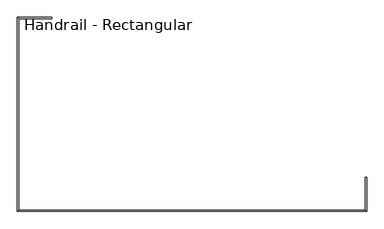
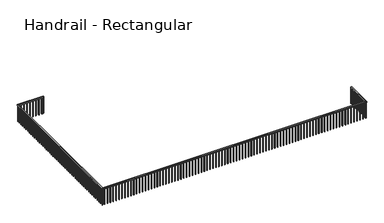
"""IFC4 building model written with IfcOpenShell, lengths in millimetres: railing geometry, Handrail - Rectangular."""

from ifc_helpers import new_model, si_unit, frame, origin, place, context, project, spatial, polyline, outline, extrude, faceted_brep, source, transform, mapped, element, save


def handrail_rectangular_55d58416(model_context):
    return source(origin(), model_context, "Body", "SolidModel", [
        faceted_brep([(-18781.6839563, -34232.3683133, 3962.4), (-18730.8839563, -34232.3683133, 3962.4), (-18730.8839563, -34232.3683133, 3911.6), (-18781.6839563, -34232.3683133, 3911.6), (-18781.6839563, -35527.7683133, 3962.4), (-18730.8839563, -35578.5683133, 3962.4), (-18730.8839563, -35578.5683133, 3911.6), (-18781.6839563, -35527.7683133, 3911.6), (-32396.0839563, -35527.7683133, 3962.4), (-32446.8839563, -35578.5683133, 3962.4), (-32446.8839563, -35578.5683133, 3911.6), (-32396.0839563, -35527.7683133, 3911.6), (-32396.0839563, -28009.3683133, 3962.4), (-32446.8839563, -27958.5683133, 3962.4), (-32446.8839563, -27958.5683133, 3911.6), (-32396.0839563, -28009.3683133, 3911.6), (-31100.6839563, -28009.3683133, 3962.4), (-31100.6839563, -28009.3683133, 3911.6), (-31100.6839563, -27958.5683133, 3911.6), (-31100.6839563, -27958.5683133, 3962.4)], [[[0, 1, 2, 3]], [[1, 0, 4, 5]], [[2, 1, 5, 6]], [[3, 2, 6, 7]], [[0, 3, 7, 4]], [[5, 4, 8, 9]], [[6, 5, 9, 10]], [[7, 6, 10, 11]], [[4, 7, 11, 8]], [[9, 8, 12, 13]], [[10, 9, 13, 14]], [[11, 10, 14, 15]], [[8, 11, 15, 12]], [[16, 17, 18, 19]], [[13, 12, 16, 19]], [[14, 13, 19, 18]], [[15, 14, 18, 17]], [[12, 15, 17, 16]]]),
        extrude(outline(polyline([(-31211.8089563, -27993.4933133), (-31211.8089563, -27974.4433133), (-31192.7589563, -27974.4433133), (-31192.7589563, -27993.4933133), (-31211.8089563, -27993.4933133)])), frame((0.0, 0.0, 3048.0), z_axis=(0.0, 0.0, 1.0), x_axis=(1.0, 0.0, 0.0)), (0.0, 0.0, 1.0), 863.6),
        extrude(outline(polyline([(-31364.2089563, -27993.4933133), (-31364.2089563, -27974.4433133), (-31345.1589563, -27974.4433133), (-31345.1589563, -27993.4933133), (-31364.2089563, -27993.4933133)])), frame((0.0, 0.0, 3048.0), z_axis=(0.0, 0.0, 1.0), x_axis=(1.0, 0.0, 0.0)), (0.0, 0.0, 1.0), 863.6),
        extrude(outline(polyline([(-31516.6089563, -27993.4933133), (-31516.6089563, -27974.4433133), (-31497.5589563, -27974.4433133), (-31497.5589563, -27993.4933133), (-31516.6089563, -27993.4933133)])), frame((0.0, 0.0, 3048.0), z_axis=(0.0, 0.0, 1.0), x_axis=(1.0, 0.0, 0.0)), (0.0, 0.0, 1.0), 863.6),
        extrude(outline(polyline([(-31669.0089563, -27993.4933133), (-31669.0089563, -27974.4433133), (-31649.9589563, -27974.4433133), (-31649.9589563, -27993.4933133), (-31669.0089563, -27993.4933133)])), frame((0.0, 0.0, 3048.0), z_axis=(0.0, 0.0, 1.0), x_axis=(1.0, 0.0, 0.0)), (0.0, 0.0, 1.0), 863.6),
        extrude(outline(polyline([(-31821.4089563, -27993.4933133), (-31821.4089563, -27974.4433133), (-31802.3589563, -27974.4433133), (-31802.3589563, -27993.4933133), (-31821.4089563, -27993.4933133)])), frame((0.0, 0.0, 3048.0), z_axis=(0.0, 0.0, 1.0), x_axis=(1.0, 0.0, 0.0)), (0.0, 0.0, 1.0), 863.6),
        extrude(outline(polyline([(-31973.8089563, -27993.4933133), (-31973.8089563, -27974.4433133), (-31954.7589563, -27974.4433133), (-31954.7589563, -27993.4933133), (-31973.8089563, -27993.4933133)])), frame((0.0, 0.0, 3048.0), z_axis=(0.0, 0.0, 1.0), x_axis=(1.0, 0.0, 0.0)), (0.0, 0.0, 1.0), 863.6),
        extrude(outline(polyline([(-32126.2089563, -27993.4933133), (-32126.2089563, -27974.4433133), (-32107.1589563, -27974.4433133), (-32107.1589563, -27993.4933133), (-32126.2089563, -27993.4933133)])), frame((0.0, 0.0, 3048.0), z_axis=(0.0, 0.0, 1.0), x_axis=(1.0, 0.0, 0.0)), (0.0, 0.0, 1.0), 863.6),
        extrude(outline(polyline([(-32278.6089563, -27993.4933133), (-32278.6089563, -27974.4433133), (-32259.5589563, -27974.4433133), (-32259.5589563, -27993.4933133), (-32278.6089563, -27993.4933133)])), frame((0.0, 0.0, 3048.0), z_axis=(0.0, 0.0, 1.0), x_axis=(1.0, 0.0, 0.0)), (0.0, 0.0, 1.0), 863.6),
        extrude(outline(polyline([(-32411.9589563, -28095.0933133), (-32431.0089563, -28095.0933133), (-32431.0089563, -28076.0433133), (-32411.9589563, -28076.0433133), (-32411.9589563, -28095.0933133)])), frame((0.0, 0.0, 3048.0), z_axis=(0.0, 0.0, 1.0), x_axis=(1.0, 0.0, 0.0)), (0.0, 0.0, 1.0), 863.6),
        extrude(outline(polyline([(-32411.9589563, -28247.4933133), (-32431.0089563, -28247.4933133), (-32431.0089563, -28228.4433133), (-32411.9589563, -28228.4433133), (-32411.9589563, -28247.4933133)])), frame((0.0, 0.0, 3048.0), z_axis=(0.0, 0.0, 1.0), x_axis=(1.0, 0.0, 0.0)), (0.0, 0.0, 1.0), 863.6),
        extrude(outline(polyline([(-32411.9589563, -28399.8933133), (-32431.0089563, -28399.8933133), (-32431.0089563, -28380.8433133), (-32411.9589563, -28380.8433133), (-32411.9589563, -28399.8933133)])), frame((0.0, 0.0, 3048.0), z_axis=(0.0, 0.0, 1.0), x_axis=(1.0, 0.0, 0.0)), (0.0, 0.0, 1.0), 863.6),
        extrude(outline(polyline([(-32411.9589563, -28552.2933133), (-32431.0089563, -28552.2933133), (-32431.0089563, -28533.2433133), (-32411.9589563, -28533.2433133), (-32411.9589563, -28552.2933133)])), frame((0.0, 0.0, 3048.0), z_axis=(0.0, 0.0, 1.0), x_axis=(1.0, 0.0, 0.0)), (0.0, 0.0, 1.0), 863.6),
        extrude(outline(polyline([(-32411.9589563, -28704.6933133), (-32431.0089563, -28704.6933133), (-32431.0089563, -28685.6433133), (-32411.9589563, -28685.6433133), (-32411.9589563, -28704.6933133)])), frame((0.0, 0.0, 3048.0), z_axis=(0.0, 0.0, 1.0), x_axis=(1.0, 0.0, 0.0)), (0.0, 0.0, 1.0), 863.6),
        extrude(outline(polyline([(-32411.9589563, -28857.0933133), (-32431.0089563, -28857.0933133), (-32431.0089563, -28838.0433133), (-32411.9589563, -28838.0433133), (-32411.9589563, -28857.0933133)])), frame((0.0, 0.0, 3048.0), z_axis=(0.0, 0.0, 1.0), x_axis=(1.0, 0.0, 0.0)), (0.0, 0.0, 1.0), 863.6),
        extrude(outline(polyline([(-32411.9589563, -29009.4933133), (-32431.0089563, -29009.4933133), (-32431.0089563, -28990.4433133), (-32411.9589563, -28990.4433133), (-32411.9589563, -29009.4933133)])), frame((0.0, 0.0, 3048.0), z_axis=(0.0, 0.0, 1.0), x_axis=(1.0, 0.0, 0.0)), (0.0, 0.0, 1.0), 863.6),
        extrude(outline(polyline([(-32411.9589563, -29161.8933133), (-32431.0089563, -29161.8933133), (-32431.0089563, -29142.8433133), (-32411.9589563, -29142.8433133), (-32411.9589563, -29161.8933133)])), frame((0.0, 0.0, 3048.0), z_axis=(0.0, 0.0, 1.0), x_axis=(1.0, 0.0, 0.0)), (0.0, 0.0, 1.0), 863.6),
        extrude(outline(polyline([(-32411.9589563, -29314.2933133), (-32431.0089563, -29314.2933133), (-32431.0089563, -29295.2433133), (-32411.9589563, -29295.2433133), (-32411.9589563, -29314.2933133)])), frame((0.0, 0.0, 3048.0), z_axis=(0.0, 0.0, 1.0), x_axis=(1.0, 0.0, 0.0)), (0.0, 0.0, 1.0), 863.6),
        extrude(outline(polyline([(-32411.9589563, -29466.6933133), (-32431.0089563, -29466.6933133), (-32431.0089563, -29447.6433133), (-32411.9589563, -29447.6433133), (-32411.9589563, -29466.6933133)])), frame((0.0, 0.0, 3048.0), z_axis=(0.0, 0.0, 1.0), x_axis=(1.0, 0.0, 0.0)), (0.0, 0.0, 1.0), 863.6),
        extrude(outline(polyline([(-32411.9589563, -29619.0933133), (-32431.0089563, -29619.0933133), (-32431.0089563, -29600.0433133), (-32411.9589563, -29600.0433133), (-32411.9589563, -29619.0933133)])), frame((0.0, 0.0, 3048.0), z_axis=(0.0, 0.0, 1.0), x_axis=(1.0, 0.0, 0.0)), (0.0, 0.0, 1.0), 863.6),
        extrude(outline(polyline([(-32411.9589563, -29771.4933133), (-32431.0089563, -29771.4933133), (-32431.0089563, -29752.4433133), (-32411.9589563, -29752.4433133), (-32411.9589563, -29771.4933133)])), frame((0.0, 0.0, 3048.0), z_axis=(0.0, 0.0, 1.0), x_axis=(1.0, 0.0, 0.0)), (0.0, 0.0, 1.0), 863.6),
        extrude(outline(polyline([(-32411.9589563, -29923.8933133), (-32431.0089563, -29923.8933133), (-32431.0089563, -29904.8433133), (-32411.9589563, -29904.8433133), (-32411.9589563, -29923.8933133)])), frame((0.0, 0.0, 3048.0), z_axis=(0.0, 0.0, 1.0), x_axis=(1.0, 0.0, 0.0)), (0.0, 0.0, 1.0), 863.6),
        extrude(outline(polyline([(-32411.9589563, -30076.2933133), (-32431.0089563, -30076.2933133), (-32431.0089563, -30057.2433133), (-32411.9589563, -30057.2433133), (-32411.9589563, -30076.2933133)])), frame((0.0, 0.0, 3048.0), z_axis=(0.0, 0.0, 1.0), x_axis=(1.0, 0.0, 0.0)), (0.0, 0.0, 1.0), 863.6),
        extrude(outline(polyline([(-32411.9589563, -30228.6933133), (-32431.0089563, -30228.6933133), (-32431.0089563, -30209.6433133), (-32411.9589563, -30209.6433133), (-32411.9589563, -30228.6933133)])), frame((0.0, 0.0, 3048.0), z_axis=(0.0, 0.0, 1.0), x_axis=(1.0, 0.0, 0.0)), (0.0, 0.0, 1.0), 863.6),
        extrude(outline(polyline([(-32411.9589563, -30381.0933133), (-32431.0089563, -30381.0933133), (-32431.0089563, -30362.0433133), (-32411.9589563, -30362.0433133), (-32411.9589563, -30381.0933133)])), frame((0.0, 0.0, 3048.0), z_axis=(0.0, 0.0, 1.0), x_axis=(1.0, 0.0, 0.0)), (0.0, 0.0, 1.0), 863.6),
        extrude(outline(polyline([(-32411.9589563, -30533.4933133), (-32431.0089563, -30533.4933133), (-32431.0089563, -30514.4433133), (-32411.9589563, -30514.4433133), (-32411.9589563, -30533.4933133)])), frame((0.0, 0.0, 3048.0), z_axis=(0.0, 0.0, 1.0), x_axis=(1.0, 0.0, 0.0)), (0.0, 0.0, 1.0), 863.6),
        extrude(outline(polyline([(-32411.9589563, -30685.8933133), (-32431.0089563, -30685.8933133), (-32431.0089563, -30666.8433133), (-32411.9589563, -30666.8433133), (-32411.9589563, -30685.8933133)])), frame((0.0, 0.0, 3048.0), z_axis=(0.0, 0.0, 1.0), x_axis=(1.0, 0.0, 0.0)), (0.0, 0.0, 1.0), 863.6),
        extrude(outline(polyline([(-32411.9589563, -30838.2933133), (-32431.0089563, -30838.2933133), (-32431.0089563, -30819.2433133), (-32411.9589563, -30819.2433133), (-32411.9589563, -30838.2933133)])), frame((0.0, 0.0, 3048.0), z_axis=(0.0, 0.0, 1.0), x_axis=(1.0, 0.0, 0.0)), (0.0, 0.0, 1.0), 863.6),
        extrude(outline(polyline([(-32411.9589563, -30990.6933133), (-32431.0089563, -30990.6933133), (-32431.0089563, -30971.6433133), (-32411.9589563, -30971.6433133), (-32411.9589563, -30990.6933133)])), frame((0.0, 0.0, 3048.0), z_axis=(0.0, 0.0, 1.0), x_axis=(1.0, 0.0, 0.0)), (0.0, 0.0, 1.0), 863.6),
        extrude(outline(polyline([(-32411.9589563, -31143.0933133), (-32431.0089563, -31143.0933133), (-32431.0089563, -31124.0433133), (-32411.9589563, -31124.0433133), (-32411.9589563, -31143.0933133)])), frame((0.0, 0.0, 3048.0), z_axis=(0.0, 0.0, 1.0), x_axis=(1.0, 0.0, 0.0)), (0.0, 0.0, 1.0), 863.6),
        extrude(outline(polyline([(-32411.9589563, -31295.4933133), (-32431.0089563, -31295.4933133), (-32431.0089563, -31276.4433133), (-32411.9589563, -31276.4433133), (-32411.9589563, -31295.4933133)])), frame((0.0, 0.0, 3048.0), z_axis=(0.0, 0.0, 1.0), x_axis=(1.0, 0.0, 0.0)), (0.0, 0.0, 1.0), 863.6),
        extrude(outline(polyline([(-32411.9589563, -31447.8933133), (-32431.0089563, -31447.8933133), (-32431.0089563, -31428.8433133), (-32411.9589563, -31428.8433133), (-32411.9589563, -31447.8933133)])), frame((0.0, 0.0, 3048.0), z_axis=(0.0, 0.0, 1.0), x_axis=(1.0, 0.0, 0.0)), (0.0, 0.0, 1.0), 863.6),
        extrude(outline(polyline([(-32411.9589563, -31600.2933133), (-32431.0089563, -31600.2933133), (-32431.0089563, -31581.2433133), (-32411.9589563, -31581.2433133), (-32411.9589563, -31600.2933133)])), frame((0.0, 0.0, 3048.0), z_axis=(0.0, 0.0, 1.0), x_axis=(1.0, 0.0, 0.0)), (0.0, 0.0, 1.0), 863.6),
        extrude(outline(polyline([(-32411.9589563, -31752.6933133), (-32431.0089563, -31752.6933133), (-32431.0089563, -31733.6433133), (-32411.9589563, -31733.6433133), (-32411.9589563, -31752.6933133)])), frame((0.0, 0.0, 3048.0), z_axis=(0.0, 0.0, 1.0), x_axis=(1.0, 0.0, 0.0)), (0.0, 0.0, 1.0), 863.6),
        extrude(outline(polyline([(-32411.9589563, -31905.0933133), (-32431.0089563, -31905.0933133), (-32431.0089563, -31886.0433133), (-32411.9589563, -31886.0433133), (-32411.9589563, -31905.0933133)])), frame((0.0, 0.0, 3048.0), z_axis=(0.0, 0.0, 1.0), x_axis=(1.0, 0.0, 0.0)), (0.0, 0.0, 1.0), 863.6),
        extrude(outline(polyline([(-32411.9589563, -32057.4933133), (-32431.0089563, -32057.4933133), (-32431.0089563, -32038.4433133), (-32411.9589563, -32038.4433133), (-32411.9589563, -32057.4933133)])), frame((0.0, 0.0, 3048.0), z_axis=(0.0, 0.0, 1.0), x_axis=(1.0, 0.0, 0.0)), (0.0, 0.0, 1.0), 863.6),
        extrude(outline(polyline([(-32411.9589563, -32209.8933133), (-32431.0089563, -32209.8933133), (-32431.0089563, -32190.8433133), (-32411.9589563, -32190.8433133), (-32411.9589563, -32209.8933133)])), frame((0.0, 0.0, 3048.0), z_axis=(0.0, 0.0, 1.0), x_axis=(1.0, 0.0, 0.0)), (0.0, 0.0, 1.0), 863.6),
        extrude(outline(polyline([(-32411.9589563, -32362.2933133), (-32431.0089563, -32362.2933133), (-32431.0089563, -32343.2433133), (-32411.9589563, -32343.2433133), (-32411.9589563, -32362.2933133)])), frame((0.0, 0.0, 3048.0), z_axis=(0.0, 0.0, 1.0), x_axis=(1.0, 0.0, 0.0)), (0.0, 0.0, 1.0), 863.6),
        extrude(outline(polyline([(-32411.9589563, -32514.6933133), (-32431.0089563, -32514.6933133), (-32431.0089563, -32495.6433133), (-32411.9589563, -32495.6433133), (-32411.9589563, -32514.6933133)])), frame((0.0, 0.0, 3048.0), z_axis=(0.0, 0.0, 1.0), x_axis=(1.0, 0.0, 0.0)), (0.0, 0.0, 1.0), 863.6),
        extrude(outline(polyline([(-32411.9589563, -32667.0933133), (-32431.0089563, -32667.0933133), (-32431.0089563, -32648.0433133), (-32411.9589563, -32648.0433133), (-32411.9589563, -32667.0933133)])), frame((0.0, 0.0, 3048.0), z_axis=(0.0, 0.0, 1.0), x_axis=(1.0, 0.0, 0.0)), (0.0, 0.0, 1.0), 863.6),
        extrude(outline(polyline([(-32411.9589563, -32819.4933133), (-32431.0089563, -32819.4933133), (-32431.0089563, -32800.4433133), (-32411.9589563, -32800.4433133), (-32411.9589563, -32819.4933133)])), frame((0.0, 0.0, 3048.0), z_axis=(0.0, 0.0, 1.0), x_axis=(1.0, 0.0, 0.0)), (0.0, 0.0, 1.0), 863.6),
        extrude(outline(polyline([(-32411.9589563, -32971.8933133), (-32431.0089563, -32971.8933133), (-32431.0089563, -32952.8433133), (-32411.9589563, -32952.8433133), (-32411.9589563, -32971.8933133)])), frame((0.0, 0.0, 3048.0), z_axis=(0.0, 0.0, 1.0), x_axis=(1.0, 0.0, 0.0)), (0.0, 0.0, 1.0), 863.6),
        extrude(outline(polyline([(-32411.9589563, -33124.2933133), (-32431.0089563, -33124.2933133), (-32431.0089563, -33105.2433133), (-32411.9589563, -33105.2433133), (-32411.9589563, -33124.2933133)])), frame((0.0, 0.0, 3048.0), z_axis=(0.0, 0.0, 1.0), x_axis=(1.0, 0.0, 0.0)), (0.0, 0.0, 1.0), 863.6),
        extrude(outline(polyline([(-32411.9589563, -33276.6933133), (-32431.0089563, -33276.6933133), (-32431.0089563, -33257.6433133), (-32411.9589563, -33257.6433133), (-32411.9589563, -33276.6933133)])), frame((0.0, 0.0, 3048.0), z_axis=(0.0, 0.0, 1.0), x_axis=(1.0, 0.0, 0.0)), (0.0, 0.0, 1.0), 863.6),
        extrude(outline(polyline([(-32411.9589563, -33429.0933133), (-32431.0089563, -33429.0933133), (-32431.0089563, -33410.0433133), (-32411.9589563, -33410.0433133), (-32411.9589563, -33429.0933133)])), frame((0.0, 0.0, 3048.0), z_axis=(0.0, 0.0, 1.0), x_axis=(1.0, 0.0, 0.0)), (0.0, 0.0, 1.0), 863.6),
        extrude(outline(polyline([(-32411.9589563, -33581.4933133), (-32431.0089563, -33581.4933133), (-32431.0089563, -33562.4433133), (-32411.9589563, -33562.4433133), (-32411.9589563, -33581.4933133)])), frame((0.0, 0.0, 3048.0), z_axis=(0.0, 0.0, 1.0), x_axis=(1.0, 0.0, 0.0)), (0.0, 0.0, 1.0), 863.6),
        extrude(outline(polyline([(-32411.9589563, -33733.8933133), (-32431.0089563, -33733.8933133), (-32431.0089563, -33714.8433133), (-32411.9589563, -33714.8433133), (-32411.9589563, -33733.8933133)])), frame((0.0, 0.0, 3048.0), z_axis=(0.0, 0.0, 1.0), x_axis=(1.0, 0.0, 0.0)), (0.0, 0.0, 1.0), 863.6),
        extrude(outline(polyline([(-32411.9589563, -33886.2933133), (-32431.0089563, -33886.2933133), (-32431.0089563, -33867.2433133), (-32411.9589563, -33867.2433133), (-32411.9589563, -33886.2933133)])), frame((0.0, 0.0, 3048.0), z_axis=(0.0, 0.0, 1.0), x_axis=(1.0, 0.0, 0.0)), (0.0, 0.0, 1.0), 863.6),
        extrude(outline(polyline([(-32411.9589563, -34038.6933133), (-32431.0089563, -34038.6933133), (-32431.0089563, -34019.6433133), (-32411.9589563, -34019.6433133), (-32411.9589563, -34038.6933133)])), frame((0.0, 0.0, 3048.0), z_axis=(0.0, 0.0, 1.0), x_axis=(1.0, 0.0, 0.0)), (0.0, 0.0, 1.0), 863.6),
        extrude(outline(polyline([(-32411.9589563, -34191.0933133), (-32431.0089563, -34191.0933133), (-32431.0089563, -34172.0433133), (-32411.9589563, -34172.0433133), (-32411.9589563, -34191.0933133)])), frame((0.0, 0.0, 3048.0), z_axis=(0.0, 0.0, 1.0), x_axis=(1.0, 0.0, 0.0)), (0.0, 0.0, 1.0), 863.6),
        extrude(outline(polyline([(-32411.9589563, -34343.4933133), (-32431.0089563, -34343.4933133), (-32431.0089563, -34324.4433133), (-32411.9589563, -34324.4433133), (-32411.9589563, -34343.4933133)])), frame((0.0, 0.0, 3048.0), z_axis=(0.0, 0.0, 1.0), x_axis=(1.0, 0.0, 0.0)), (0.0, 0.0, 1.0), 863.6),
        extrude(outline(polyline([(-32411.9589563, -34495.8933133), (-32431.0089563, -34495.8933133), (-32431.0089563, -34476.8433133), (-32411.9589563, -34476.8433133), (-32411.9589563, -34495.8933133)])), frame((0.0, 0.0, 3048.0), z_axis=(0.0, 0.0, 1.0), x_axis=(1.0, 0.0, 0.0)), (0.0, 0.0, 1.0), 863.6),
        extrude(outline(polyline([(-32411.9589563, -34648.2933133), (-32431.0089563, -34648.2933133), (-32431.0089563, -34629.2433133), (-32411.9589563, -34629.2433133), (-32411.9589563, -34648.2933133)])), frame((0.0, 0.0, 3048.0), z_axis=(0.0, 0.0, 1.0), x_axis=(1.0, 0.0, 0.0)), (0.0, 0.0, 1.0), 863.6),
        extrude(outline(polyline([(-32411.9589563, -34800.6933133), (-32431.0089563, -34800.6933133), (-32431.0089563, -34781.6433133), (-32411.9589563, -34781.6433133), (-32411.9589563, -34800.6933133)])), frame((0.0, 0.0, 3048.0), z_axis=(0.0, 0.0, 1.0), x_axis=(1.0, 0.0, 0.0)), (0.0, 0.0, 1.0), 863.6),
        extrude(outline(polyline([(-32411.9589563, -34953.0933133), (-32431.0089563, -34953.0933133), (-32431.0089563, -34934.0433133), (-32411.9589563, -34934.0433133), (-32411.9589563, -34953.0933133)])), frame((0.0, 0.0, 3048.0), z_axis=(0.0, 0.0, 1.0), x_axis=(1.0, 0.0, 0.0)), (0.0, 0.0, 1.0), 863.6),
        extrude(outline(polyline([(-32411.9589563, -35105.4933133), (-32431.0089563, -35105.4933133), (-32431.0089563, -35086.4433133), (-32411.9589563, -35086.4433133), (-32411.9589563, -35105.4933133)])), frame((0.0, 0.0, 3048.0), z_axis=(0.0, 0.0, 1.0), x_axis=(1.0, 0.0, 0.0)), (0.0, 0.0, 1.0), 863.6),
        extrude(outline(polyline([(-32411.9589563, -35257.8933133), (-32431.0089563, -35257.8933133), (-32431.0089563, -35238.8433133), (-32411.9589563, -35238.8433133), (-32411.9589563, -35257.8933133)])), frame((0.0, 0.0, 3048.0), z_axis=(0.0, 0.0, 1.0), x_axis=(1.0, 0.0, 0.0)), (0.0, 0.0, 1.0), 863.6),
        extrude(outline(polyline([(-32411.9589563, -35410.2933133), (-32431.0089563, -35410.2933133), (-32431.0089563, -35391.2433133), (-32411.9589563, -35391.2433133), (-32411.9589563, -35410.2933133)])), frame((0.0, 0.0, 3048.0), z_axis=(0.0, 0.0, 1.0), x_axis=(1.0, 0.0, 0.0)), (0.0, 0.0, 1.0), 863.6),
        extrude(outline(polyline([(-32310.3589563, -35543.6433133), (-32310.3589563, -35562.6933133), (-32329.4089563, -35562.6933133), (-32329.4089563, -35543.6433133), (-32310.3589563, -35543.6433133)])), frame((0.0, 0.0, 3048.0), z_axis=(0.0, 0.0, 1.0), x_axis=(1.0, 0.0, 0.0)), (0.0, 0.0, 1.0), 863.6),
        extrude(outline(polyline([(-32157.9589563, -35543.6433133), (-32157.9589563, -35562.6933133), (-32177.0089563, -35562.6933133), (-32177.0089563, -35543.6433133), (-32157.9589563, -35543.6433133)])), frame((0.0, 0.0, 3048.0), z_axis=(0.0, 0.0, 1.0), x_axis=(1.0, 0.0, 0.0)), (0.0, 0.0, 1.0), 863.6),
        extrude(outline(polyline([(-32005.5589563, -35543.6433133), (-32005.5589563, -35562.6933133), (-32024.6089563, -35562.6933133), (-32024.6089563, -35543.6433133), (-32005.5589563, -35543.6433133)])), frame((0.0, 0.0, 3048.0), z_axis=(0.0, 0.0, 1.0), x_axis=(1.0, 0.0, 0.0)), (0.0, 0.0, 1.0), 863.6),
        extrude(outline(polyline([(-31853.1589563, -35543.6433133), (-31853.1589563, -35562.6933133), (-31872.2089563, -35562.6933133), (-31872.2089563, -35543.6433133), (-31853.1589563, -35543.6433133)])), frame((0.0, 0.0, 3048.0), z_axis=(0.0, 0.0, 1.0), x_axis=(1.0, 0.0, 0.0)), (0.0, 0.0, 1.0), 863.6),
        extrude(outline(polyline([(-31700.7589563, -35543.6433133), (-31700.7589563, -35562.6933133), (-31719.8089563, -35562.6933133), (-31719.8089563, -35543.6433133), (-31700.7589563, -35543.6433133)])), frame((0.0, 0.0, 3048.0), z_axis=(0.0, 0.0, 1.0), x_axis=(1.0, 0.0, 0.0)), (0.0, 0.0, 1.0), 863.6),
        extrude(outline(polyline([(-31548.3589563, -35543.6433133), (-31548.3589563, -35562.6933133), (-31567.4089563, -35562.6933133), (-31567.4089563, -35543.6433133), (-31548.3589563, -35543.6433133)])), frame((0.0, 0.0, 3048.0), z_axis=(0.0, 0.0, 1.0), x_axis=(1.0, 0.0, 0.0)), (0.0, 0.0, 1.0), 863.6),
        extrude(outline(polyline([(-31395.9589563, -35543.6433133), (-31395.9589563, -35562.6933133), (-31415.0089563, -35562.6933133), (-31415.0089563, -35543.6433133), (-31395.9589563, -35543.6433133)])), frame((0.0, 0.0, 3048.0), z_axis=(0.0, 0.0, 1.0), x_axis=(1.0, 0.0, 0.0)), (0.0, 0.0, 1.0), 863.6),
        extrude(outline(polyline([(-31243.5589563, -35543.6433133), (-31243.5589563, -35562.6933133), (-31262.6089563, -35562.6933133), (-31262.6089563, -35543.6433133), (-31243.5589563, -35543.6433133)])), frame((0.0, 0.0, 3048.0), z_axis=(0.0, 0.0, 1.0), x_axis=(1.0, 0.0, 0.0)), (0.0, 0.0, 1.0), 863.6),
        extrude(outline(polyline([(-31091.1589563, -35543.6433133), (-31091.1589563, -35562.6933133), (-31110.2089563, -35562.6933133), (-31110.2089563, -35543.6433133), (-31091.1589563, -35543.6433133)])), frame((0.0, 0.0, 3048.0), z_axis=(0.0, 0.0, 1.0), x_axis=(1.0, 0.0, 0.0)), (0.0, 0.0, 1.0), 863.6),
        extrude(outline(polyline([(-30938.7589563, -35543.6433133), (-30938.7589563, -35562.6933133), (-30957.8089563, -35562.6933133), (-30957.8089563, -35543.6433133), (-30938.7589563, -35543.6433133)])), frame((0.0, 0.0, 3048.0), z_axis=(0.0, 0.0, 1.0), x_axis=(1.0, 0.0, 0.0)), (0.0, 0.0, 1.0), 863.6),
        extrude(outline(polyline([(-30786.3589563, -35543.6433133), (-30786.3589563, -35562.6933133), (-30805.4089563, -35562.6933133), (-30805.4089563, -35543.6433133), (-30786.3589563, -35543.6433133)])), frame((0.0, 0.0, 3048.0), z_axis=(0.0, 0.0, 1.0), x_axis=(1.0, 0.0, 0.0)), (0.0, 0.0, 1.0), 863.6),
        extrude(outline(polyline([(-30633.9589563, -35543.6433133), (-30633.9589563, -35562.6933133), (-30653.0089563, -35562.6933133), (-30653.0089563, -35543.6433133), (-30633.9589563, -35543.6433133)])), frame((0.0, 0.0, 3048.0), z_axis=(0.0, 0.0, 1.0), x_axis=(1.0, 0.0, 0.0)), (0.0, 0.0, 1.0), 863.6),
        extrude(outline(polyline([(-30481.5589563, -35543.6433133), (-30481.5589563, -35562.6933133), (-30500.6089563, -35562.6933133), (-30500.6089563, -35543.6433133), (-30481.5589563, -35543.6433133)])), frame((0.0, 0.0, 3048.0), z_axis=(0.0, 0.0, 1.0), x_axis=(1.0, 0.0, 0.0)), (0.0, 0.0, 1.0), 863.6),
        extrude(outline(polyline([(-30329.1589563, -35543.6433133), (-30329.1589563, -35562.6933133), (-30348.2089563, -35562.6933133), (-30348.2089563, -35543.6433133), (-30329.1589563, -35543.6433133)])), frame((0.0, 0.0, 3048.0), z_axis=(0.0, 0.0, 1.0), x_axis=(1.0, 0.0, 0.0)), (0.0, 0.0, 1.0), 863.6),
        extrude(outline(polyline([(-30176.7589563, -35543.6433133), (-30176.7589563, -35562.6933133), (-30195.8089563, -35562.6933133), (-30195.8089563, -35543.6433133), (-30176.7589563, -35543.6433133)])), frame((0.0, 0.0, 3048.0), z_axis=(0.0, 0.0, 1.0), x_axis=(1.0, 0.0, 0.0)), (0.0, 0.0, 1.0), 863.6),
        extrude(outline(polyline([(-30024.3589563, -35543.6433133), (-30024.3589563, -35562.6933133), (-30043.4089563, -35562.6933133), (-30043.4089563, -35543.6433133), (-30024.3589563, -35543.6433133)])), frame((0.0, 0.0, 3048.0), z_axis=(0.0, 0.0, 1.0), x_axis=(1.0, 0.0, 0.0)), (0.0, 0.0, 1.0), 863.6),
        extrude(outline(polyline([(-29871.9589563, -35543.6433133), (-29871.9589563, -35562.6933133), (-29891.0089563, -35562.6933133), (-29891.0089563, -35543.6433133), (-29871.9589563, -35543.6433133)])), frame((0.0, 0.0, 3048.0), z_axis=(0.0, 0.0, 1.0), x_axis=(1.0, 0.0, 0.0)), (0.0, 0.0, 1.0), 863.6),
        extrude(outline(polyline([(-29719.5589563, -35543.6433133), (-29719.5589563, -35562.6933133), (-29738.6089563, -35562.6933133), (-29738.6089563, -35543.6433133), (-29719.5589563, -35543.6433133)])), frame((0.0, 0.0, 3048.0), z_axis=(0.0, 0.0, 1.0), x_axis=(1.0, 0.0, 0.0)), (0.0, 0.0, 1.0), 863.6),
        extrude(outline(polyline([(-29567.1589563, -35543.6433133), (-29567.1589563, -35562.6933133), (-29586.2089563, -35562.6933133), (-29586.2089563, -35543.6433133), (-29567.1589563, -35543.6433133)])), frame((0.0, 0.0, 3048.0), z_axis=(0.0, 0.0, 1.0), x_axis=(1.0, 0.0, 0.0)), (0.0, 0.0, 1.0), 863.6),
        extrude(outline(polyline([(-29414.7589563, -35543.6433133), (-29414.7589563, -35562.6933133), (-29433.8089563, -35562.6933133), (-29433.8089563, -35543.6433133), (-29414.7589563, -35543.6433133)])), frame((0.0, 0.0, 3048.0), z_axis=(0.0, 0.0, 1.0), x_axis=(1.0, 0.0, 0.0)), (0.0, 0.0, 1.0), 863.6),
        extrude(outline(polyline([(-29262.3589563, -35543.6433133), (-29262.3589563, -35562.6933133), (-29281.4089563, -35562.6933133), (-29281.4089563, -35543.6433133), (-29262.3589563, -35543.6433133)])), frame((0.0, 0.0, 3048.0), z_axis=(0.0, 0.0, 1.0), x_axis=(1.0, 0.0, 0.0)), (0.0, 0.0, 1.0), 863.6),
        extrude(outline(polyline([(-29109.9589563, -35543.6433133), (-29109.9589563, -35562.6933133), (-29129.0089563, -35562.6933133), (-29129.0089563, -35543.6433133), (-29109.9589563, -35543.6433133)])), frame((0.0, 0.0, 3048.0), z_axis=(0.0, 0.0, 1.0), x_axis=(1.0, 0.0, 0.0)), (0.0, 0.0, 1.0), 863.6),
        extrude(outline(polyline([(-28957.5589563, -35543.6433133), (-28957.5589563, -35562.6933133), (-28976.6089563, -35562.6933133), (-28976.6089563, -35543.6433133), (-28957.5589563, -35543.6433133)])), frame((0.0, 0.0, 3048.0), z_axis=(0.0, 0.0, 1.0), x_axis=(1.0, 0.0, 0.0)), (0.0, 0.0, 1.0), 863.6),
        extrude(outline(polyline([(-28805.1589563, -35543.6433133), (-28805.1589563, -35562.6933133), (-28824.2089563, -35562.6933133), (-28824.2089563, -35543.6433133), (-28805.1589563, -35543.6433133)])), frame((0.0, 0.0, 3048.0), z_axis=(0.0, 0.0, 1.0), x_axis=(1.0, 0.0, 0.0)), (0.0, 0.0, 1.0), 863.6),
        extrude(outline(polyline([(-28652.7589563, -35543.6433133), (-28652.7589563, -35562.6933133), (-28671.8089563, -35562.6933133), (-28671.8089563, -35543.6433133), (-28652.7589563, -35543.6433133)])), frame((0.0, 0.0, 3048.0), z_axis=(0.0, 0.0, 1.0), x_axis=(1.0, 0.0, 0.0)), (0.0, 0.0, 1.0), 863.6),
        extrude(outline(polyline([(-28500.3589563, -35543.6433133), (-28500.3589563, -35562.6933133), (-28519.4089563, -35562.6933133), (-28519.4089563, -35543.6433133), (-28500.3589563, -35543.6433133)])), frame((0.0, 0.0, 3048.0), z_axis=(0.0, 0.0, 1.0), x_axis=(1.0, 0.0, 0.0)), (0.0, 0.0, 1.0), 863.6),
        extrude(outline(polyline([(-28347.9589563, -35543.6433133), (-28347.9589563, -35562.6933133), (-28367.0089563, -35562.6933133), (-28367.0089563, -35543.6433133), (-28347.9589563, -35543.6433133)])), frame((0.0, 0.0, 3048.0), z_axis=(0.0, 0.0, 1.0), x_axis=(1.0, 0.0, 0.0)), (0.0, 0.0, 1.0), 863.6),
        extrude(outline(polyline([(-28195.5589563, -35543.6433133), (-28195.5589563, -35562.6933133), (-28214.6089563, -35562.6933133), (-28214.6089563, -35543.6433133), (-28195.5589563, -35543.6433133)])), frame((0.0, 0.0, 3048.0), z_axis=(0.0, 0.0, 1.0), x_axis=(1.0, 0.0, 0.0)), (0.0, 0.0, 1.0), 863.6),
        extrude(outline(polyline([(-28043.1589563, -35543.6433133), (-28043.1589563, -35562.6933133), (-28062.2089563, -35562.6933133), (-28062.2089563, -35543.6433133), (-28043.1589563, -35543.6433133)])), frame((0.0, 0.0, 3048.0), z_axis=(0.0, 0.0, 1.0), x_axis=(1.0, 0.0, 0.0)), (0.0, 0.0, 1.0), 863.6),
        extrude(outline(polyline([(-27890.7589563, -35543.6433133), (-27890.7589563, -35562.6933133), (-27909.8089563, -35562.6933133), (-27909.8089563, -35543.6433133), (-27890.7589563, -35543.6433133)])), frame((0.0, 0.0, 3048.0), z_axis=(0.0, 0.0, 1.0), x_axis=(1.0, 0.0, 0.0)), (0.0, 0.0, 1.0), 863.6),
        extrude(outline(polyline([(-27738.3589563, -35543.6433133), (-27738.3589563, -35562.6933133), (-27757.4089563, -35562.6933133), (-27757.4089563, -35543.6433133), (-27738.3589563, -35543.6433133)])), frame((0.0, 0.0, 3048.0), z_axis=(0.0, 0.0, 1.0), x_axis=(1.0, 0.0, 0.0)), (0.0, 0.0, 1.0), 863.6),
        extrude(outline(polyline([(-27585.9589563, -35543.6433133), (-27585.9589563, -35562.6933133), (-27605.0089563, -35562.6933133), (-27605.0089563, -35543.6433133), (-27585.9589563, -35543.6433133)])), frame((0.0, 0.0, 3048.0), z_axis=(0.0, 0.0, 1.0), x_axis=(1.0, 0.0, 0.0)), (0.0, 0.0, 1.0), 863.6),
        extrude(outline(polyline([(-27433.5589563, -35543.6433133), (-27433.5589563, -35562.6933133), (-27452.6089563, -35562.6933133), (-27452.6089563, -35543.6433133), (-27433.5589563, -35543.6433133)])), frame((0.0, 0.0, 3048.0), z_axis=(0.0, 0.0, 1.0), x_axis=(1.0, 0.0, 0.0)), (0.0, 0.0, 1.0), 863.6),
        extrude(outline(polyline([(-27281.1589563, -35543.6433133), (-27281.1589563, -35562.6933133), (-27300.2089563, -35562.6933133), (-27300.2089563, -35543.6433133), (-27281.1589563, -35543.6433133)])), frame((0.0, 0.0, 3048.0), z_axis=(0.0, 0.0, 1.0), x_axis=(1.0, 0.0, 0.0)), (0.0, 0.0, 1.0), 863.6),
        extrude(outline(polyline([(-27128.7589563, -35543.6433133), (-27128.7589563, -35562.6933133), (-27147.8089563, -35562.6933133), (-27147.8089563, -35543.6433133), (-27128.7589563, -35543.6433133)])), frame((0.0, 0.0, 3048.0), z_axis=(0.0, 0.0, 1.0), x_axis=(1.0, 0.0, 0.0)), (0.0, 0.0, 1.0), 863.6),
        extrude(outline(polyline([(-26976.3589563, -35543.6433133), (-26976.3589563, -35562.6933133), (-26995.4089563, -35562.6933133), (-26995.4089563, -35543.6433133), (-26976.3589563, -35543.6433133)])), frame((0.0, 0.0, 3048.0), z_axis=(0.0, 0.0, 1.0), x_axis=(1.0, 0.0, 0.0)), (0.0, 0.0, 1.0), 863.6),
        extrude(outline(polyline([(-26823.9589563, -35543.6433133), (-26823.9589563, -35562.6933133), (-26843.0089563, -35562.6933133), (-26843.0089563, -35543.6433133), (-26823.9589563, -35543.6433133)])), frame((0.0, 0.0, 3048.0), z_axis=(0.0, 0.0, 1.0), x_axis=(1.0, 0.0, 0.0)), (0.0, 0.0, 1.0), 863.6),
        extrude(outline(polyline([(-26671.5589563, -35543.6433133), (-26671.5589563, -35562.6933133), (-26690.6089563, -35562.6933133), (-26690.6089563, -35543.6433133), (-26671.5589563, -35543.6433133)])), frame((0.0, 0.0, 3048.0), z_axis=(0.0, 0.0, 1.0), x_axis=(1.0, 0.0, 0.0)), (0.0, 0.0, 1.0), 863.6),
        extrude(outline(polyline([(-26519.1589563, -35543.6433133), (-26519.1589563, -35562.6933133), (-26538.2089563, -35562.6933133), (-26538.2089563, -35543.6433133), (-26519.1589563, -35543.6433133)])), frame((0.0, 0.0, 3048.0), z_axis=(0.0, 0.0, 1.0), x_axis=(1.0, 0.0, 0.0)), (0.0, 0.0, 1.0), 863.6),
        extrude(outline(polyline([(-26366.7589563, -35543.6433133), (-26366.7589563, -35562.6933133), (-26385.8089563, -35562.6933133), (-26385.8089563, -35543.6433133), (-26366.7589563, -35543.6433133)])), frame((0.0, 0.0, 3048.0), z_axis=(0.0, 0.0, 1.0), x_axis=(1.0, 0.0, 0.0)), (0.0, 0.0, 1.0), 863.6),
        extrude(outline(polyline([(-26214.3589563, -35543.6433133), (-26214.3589563, -35562.6933133), (-26233.4089563, -35562.6933133), (-26233.4089563, -35543.6433133), (-26214.3589563, -35543.6433133)])), frame((0.0, 0.0, 3048.0), z_axis=(0.0, 0.0, 1.0), x_axis=(1.0, 0.0, 0.0)), (0.0, 0.0, 1.0), 863.6),
        extrude(outline(polyline([(-26061.9589563, -35543.6433133), (-26061.9589563, -35562.6933133), (-26081.0089563, -35562.6933133), (-26081.0089563, -35543.6433133), (-26061.9589563, -35543.6433133)])), frame((0.0, 0.0, 3048.0), z_axis=(0.0, 0.0, 1.0), x_axis=(1.0, 0.0, 0.0)), (0.0, 0.0, 1.0), 863.6),
        extrude(outline(polyline([(-25909.5589563, -35543.6433133), (-25909.5589563, -35562.6933133), (-25928.6089563, -35562.6933133), (-25928.6089563, -35543.6433133), (-25909.5589563, -35543.6433133)])), frame((0.0, 0.0, 3048.0), z_axis=(0.0, 0.0, 1.0), x_axis=(1.0, 0.0, 0.0)), (0.0, 0.0, 1.0), 863.6),
        extrude(outline(polyline([(-25757.1589563, -35543.6433133), (-25757.1589563, -35562.6933133), (-25776.2089563, -35562.6933133), (-25776.2089563, -35543.6433133), (-25757.1589563, -35543.6433133)])), frame((0.0, 0.0, 3048.0), z_axis=(0.0, 0.0, 1.0), x_axis=(1.0, 0.0, 0.0)), (0.0, 0.0, 1.0), 863.6),
        extrude(outline(polyline([(-25604.7589563, -35543.6433133), (-25604.7589563, -35562.6933133), (-25623.8089563, -35562.6933133), (-25623.8089563, -35543.6433133), (-25604.7589563, -35543.6433133)])), frame((0.0, 0.0, 3048.0), z_axis=(0.0, 0.0, 1.0), x_axis=(1.0, 0.0, 0.0)), (0.0, 0.0, 1.0), 863.6),
        extrude(outline(polyline([(-25452.3589563, -35543.6433133), (-25452.3589563, -35562.6933133), (-25471.4089563, -35562.6933133), (-25471.4089563, -35543.6433133), (-25452.3589563, -35543.6433133)])), frame((0.0, 0.0, 3048.0), z_axis=(0.0, 0.0, 1.0), x_axis=(1.0, 0.0, 0.0)), (0.0, 0.0, 1.0), 863.6),
        extrude(outline(polyline([(-25299.9589563, -35543.6433133), (-25299.9589563, -35562.6933133), (-25319.0089563, -35562.6933133), (-25319.0089563, -35543.6433133), (-25299.9589563, -35543.6433133)])), frame((0.0, 0.0, 3048.0), z_axis=(0.0, 0.0, 1.0), x_axis=(1.0, 0.0, 0.0)), (0.0, 0.0, 1.0), 863.6),
        extrude(outline(polyline([(-25147.5589563, -35543.6433133), (-25147.5589563, -35562.6933133), (-25166.6089563, -35562.6933133), (-25166.6089563, -35543.6433133), (-25147.5589563, -35543.6433133)])), frame((0.0, 0.0, 3048.0), z_axis=(0.0, 0.0, 1.0), x_axis=(1.0, 0.0, 0.0)), (0.0, 0.0, 1.0), 863.6),
        extrude(outline(polyline([(-24995.1589563, -35543.6433133), (-24995.1589563, -35562.6933133), (-25014.2089563, -35562.6933133), (-25014.2089563, -35543.6433133), (-24995.1589563, -35543.6433133)])), frame((0.0, 0.0, 3048.0), z_axis=(0.0, 0.0, 1.0), x_axis=(1.0, 0.0, 0.0)), (0.0, 0.0, 1.0), 863.6),
        extrude(outline(polyline([(-24842.7589563, -35543.6433133), (-24842.7589563, -35562.6933133), (-24861.8089563, -35562.6933133), (-24861.8089563, -35543.6433133), (-24842.7589563, -35543.6433133)])), frame((0.0, 0.0, 3048.0), z_axis=(0.0, 0.0, 1.0), x_axis=(1.0, 0.0, 0.0)), (0.0, 0.0, 1.0), 863.6),
        extrude(outline(polyline([(-24690.3589563, -35543.6433133), (-24690.3589563, -35562.6933133), (-24709.4089563, -35562.6933133), (-24709.4089563, -35543.6433133), (-24690.3589563, -35543.6433133)])), frame((0.0, 0.0, 3048.0), z_axis=(0.0, 0.0, 1.0), x_axis=(1.0, 0.0, 0.0)), (0.0, 0.0, 1.0), 863.6),
        extrude(outline(polyline([(-24537.9589563, -35543.6433133), (-24537.9589563, -35562.6933133), (-24557.0089563, -35562.6933133), (-24557.0089563, -35543.6433133), (-24537.9589563, -35543.6433133)])), frame((0.0, 0.0, 3048.0), z_axis=(0.0, 0.0, 1.0), x_axis=(1.0, 0.0, 0.0)), (0.0, 0.0, 1.0), 863.6),
        extrude(outline(polyline([(-24385.5589563, -35543.6433133), (-24385.5589563, -35562.6933133), (-24404.6089563, -35562.6933133), (-24404.6089563, -35543.6433133), (-24385.5589563, -35543.6433133)])), frame((0.0, 0.0, 3048.0), z_axis=(0.0, 0.0, 1.0), x_axis=(1.0, 0.0, 0.0)), (0.0, 0.0, 1.0), 863.6),
        extrude(outline(polyline([(-24233.1589563, -35543.6433133), (-24233.1589563, -35562.6933133), (-24252.2089563, -35562.6933133), (-24252.2089563, -35543.6433133), (-24233.1589563, -35543.6433133)])), frame((0.0, 0.0, 3048.0), z_axis=(0.0, 0.0, 1.0), x_axis=(1.0, 0.0, 0.0)), (0.0, 0.0, 1.0), 863.6),
        extrude(outline(polyline([(-24080.7589563, -35543.6433133), (-24080.7589563, -35562.6933133), (-24099.8089563, -35562.6933133), (-24099.8089563, -35543.6433133), (-24080.7589563, -35543.6433133)])), frame((0.0, 0.0, 3048.0), z_axis=(0.0, 0.0, 1.0), x_axis=(1.0, 0.0, 0.0)), (0.0, 0.0, 1.0), 863.6),
        extrude(outline(polyline([(-23928.3589563, -35543.6433133), (-23928.3589563, -35562.6933133), (-23947.4089563, -35562.6933133), (-23947.4089563, -35543.6433133), (-23928.3589563, -35543.6433133)])), frame((0.0, 0.0, 3048.0), z_axis=(0.0, 0.0, 1.0), x_axis=(1.0, 0.0, 0.0)), (0.0, 0.0, 1.0), 863.6),
        extrude(outline(polyline([(-23775.9589563, -35543.6433133), (-23775.9589563, -35562.6933133), (-23795.0089563, -35562.6933133), (-23795.0089563, -35543.6433133), (-23775.9589563, -35543.6433133)])), frame((0.0, 0.0, 3048.0), z_axis=(0.0, 0.0, 1.0), x_axis=(1.0, 0.0, 0.0)), (0.0, 0.0, 1.0), 863.6),
        extrude(outline(polyline([(-23623.5589563, -35543.6433133), (-23623.5589563, -35562.6933133), (-23642.6089563, -35562.6933133), (-23642.6089563, -35543.6433133), (-23623.5589563, -35543.6433133)])), frame((0.0, 0.0, 3048.0), z_axis=(0.0, 0.0, 1.0), x_axis=(1.0, 0.0, 0.0)), (0.0, 0.0, 1.0), 863.6),
        extrude(outline(polyline([(-23471.1589563, -35543.6433133), (-23471.1589563, -35562.6933133), (-23490.2089563, -35562.6933133), (-23490.2089563, -35543.6433133), (-23471.1589563, -35543.6433133)])), frame((0.0, 0.0, 3048.0), z_axis=(0.0, 0.0, 1.0), x_axis=(1.0, 0.0, 0.0)), (0.0, 0.0, 1.0), 863.6),
        extrude(outline(polyline([(-23318.7589563, -35543.6433133), (-23318.7589563, -35562.6933133), (-23337.8089563, -35562.6933133), (-23337.8089563, -35543.6433133), (-23318.7589563, -35543.6433133)])), frame((0.0, 0.0, 3048.0), z_axis=(0.0, 0.0, 1.0), x_axis=(1.0, 0.0, 0.0)), (0.0, 0.0, 1.0), 863.6),
        extrude(outline(polyline([(-23166.3589563, -35543.6433133), (-23166.3589563, -35562.6933133), (-23185.4089563, -35562.6933133), (-23185.4089563, -35543.6433133), (-23166.3589563, -35543.6433133)])), frame((0.0, 0.0, 3048.0), z_axis=(0.0, 0.0, 1.0), x_axis=(1.0, 0.0, 0.0)), (0.0, 0.0, 1.0), 863.6),
        extrude(outline(polyline([(-23013.9589563, -35543.6433133), (-23013.9589563, -35562.6933133), (-23033.0089563, -35562.6933133), (-23033.0089563, -35543.6433133), (-23013.9589563, -35543.6433133)])), frame((0.0, 0.0, 3048.0), z_axis=(0.0, 0.0, 1.0), x_axis=(1.0, 0.0, 0.0)), (0.0, 0.0, 1.0), 863.6),
        extrude(outline(polyline([(-22861.5589563, -35543.6433133), (-22861.5589563, -35562.6933133), (-22880.6089563, -35562.6933133), (-22880.6089563, -35543.6433133), (-22861.5589563, -35543.6433133)])), frame((0.0, 0.0, 3048.0), z_axis=(0.0, 0.0, 1.0), x_axis=(1.0, 0.0, 0.0)), (0.0, 0.0, 1.0), 863.6),
        extrude(outline(polyline([(-22709.1589563, -35543.6433133), (-22709.1589563, -35562.6933133), (-22728.2089563, -35562.6933133), (-22728.2089563, -35543.6433133), (-22709.1589563, -35543.6433133)])), frame((0.0, 0.0, 3048.0), z_axis=(0.0, 0.0, 1.0), x_axis=(1.0, 0.0, 0.0)), (0.0, 0.0, 1.0), 863.6),
        extrude(outline(polyline([(-22556.7589563, -35543.6433133), (-22556.7589563, -35562.6933133), (-22575.8089563, -35562.6933133), (-22575.8089563, -35543.6433133), (-22556.7589563, -35543.6433133)])), frame((0.0, 0.0, 3048.0), z_axis=(0.0, 0.0, 1.0), x_axis=(1.0, 0.0, 0.0)), (0.0, 0.0, 1.0), 863.6),
        extrude(outline(polyline([(-22404.3589563, -35543.6433133), (-22404.3589563, -35562.6933133), (-22423.4089563, -35562.6933133), (-22423.4089563, -35543.6433133), (-22404.3589563, -35543.6433133)])), frame((0.0, 0.0, 3048.0), z_axis=(0.0, 0.0, 1.0), x_axis=(1.0, 0.0, 0.0)), (0.0, 0.0, 1.0), 863.6),
        extrude(outline(polyline([(-22251.9589563, -35543.6433133), (-22251.9589563, -35562.6933133), (-22271.0089563, -35562.6933133), (-22271.0089563, -35543.6433133), (-22251.9589563, -35543.6433133)])), frame((0.0, 0.0, 3048.0), z_axis=(0.0, 0.0, 1.0), x_axis=(1.0, 0.0, 0.0)), (0.0, 0.0, 1.0), 863.6),
        extrude(outline(polyline([(-22099.5589563, -35543.6433133), (-22099.5589563, -35562.6933133), (-22118.6089563, -35562.6933133), (-22118.6089563, -35543.6433133), (-22099.5589563, -35543.6433133)])), frame((0.0, 0.0, 3048.0), z_axis=(0.0, 0.0, 1.0), x_axis=(1.0, 0.0, 0.0)), (0.0, 0.0, 1.0), 863.6),
        extrude(outline(polyline([(-21947.1589563, -35543.6433133), (-21947.1589563, -35562.6933133), (-21966.2089563, -35562.6933133), (-21966.2089563, -35543.6433133), (-21947.1589563, -35543.6433133)])), frame((0.0, 0.0, 3048.0), z_axis=(0.0, 0.0, 1.0), x_axis=(1.0, 0.0, 0.0)), (0.0, 0.0, 1.0), 863.6),
        extrude(outline(polyline([(-21794.7589563, -35543.6433133), (-21794.7589563, -35562.6933133), (-21813.8089563, -35562.6933133), (-21813.8089563, -35543.6433133), (-21794.7589563, -35543.6433133)])), frame((0.0, 0.0, 3048.0), z_axis=(0.0, 0.0, 1.0), x_axis=(1.0, 0.0, 0.0)), (0.0, 0.0, 1.0), 863.6),
        extrude(outline(polyline([(-21642.3589563, -35543.6433133), (-21642.3589563, -35562.6933133), (-21661.4089563, -35562.6933133), (-21661.4089563, -35543.6433133), (-21642.3589563, -35543.6433133)])), frame((0.0, 0.0, 3048.0), z_axis=(0.0, 0.0, 1.0), x_axis=(1.0, 0.0, 0.0)), (0.0, 0.0, 1.0), 863.6),
        extrude(outline(polyline([(-21489.9589563, -35543.6433133), (-21489.9589563, -35562.6933133), (-21509.0089563, -35562.6933133), (-21509.0089563, -35543.6433133), (-21489.9589563, -35543.6433133)])), frame((0.0, 0.0, 3048.0), z_axis=(0.0, 0.0, 1.0), x_axis=(1.0, 0.0, 0.0)), (0.0, 0.0, 1.0), 863.6),
        extrude(outline(polyline([(-21337.5589563, -35543.6433133), (-21337.5589563, -35562.6933133), (-21356.6089563, -35562.6933133), (-21356.6089563, -35543.6433133), (-21337.5589563, -35543.6433133)])), frame((0.0, 0.0, 3048.0), z_axis=(0.0, 0.0, 1.0), x_axis=(1.0, 0.0, 0.0)), (0.0, 0.0, 1.0), 863.6),
        extrude(outline(polyline([(-21185.1589563, -35543.6433133), (-21185.1589563, -35562.6933133), (-21204.2089563, -35562.6933133), (-21204.2089563, -35543.6433133), (-21185.1589563, -35543.6433133)])), frame((0.0, 0.0, 3048.0), z_axis=(0.0, 0.0, 1.0), x_axis=(1.0, 0.0, 0.0)), (0.0, 0.0, 1.0), 863.6),
        extrude(outline(polyline([(-21032.7589563, -35543.6433133), (-21032.7589563, -35562.6933133), (-21051.8089563, -35562.6933133), (-21051.8089563, -35543.6433133), (-21032.7589563, -35543.6433133)])), frame((0.0, 0.0, 3048.0), z_axis=(0.0, 0.0, 1.0), x_axis=(1.0, 0.0, 0.0)), (0.0, 0.0, 1.0), 863.6),
        extrude(outline(polyline([(-20880.3589563, -35543.6433133), (-20880.3589563, -35562.6933133), (-20899.4089563, -35562.6933133), (-20899.4089563, -35543.6433133), (-20880.3589563, -35543.6433133)])), frame((0.0, 0.0, 3048.0), z_axis=(0.0, 0.0, 1.0), x_axis=(1.0, 0.0, 0.0)), (0.0, 0.0, 1.0), 863.6),
        extrude(outline(polyline([(-20727.9589563, -35543.6433133), (-20727.9589563, -35562.6933133), (-20747.0089563, -35562.6933133), (-20747.0089563, -35543.6433133), (-20727.9589563, -35543.6433133)])), frame((0.0, 0.0, 3048.0), z_axis=(0.0, 0.0, 1.0), x_axis=(1.0, 0.0, 0.0)), (0.0, 0.0, 1.0), 863.6),
        extrude(outline(polyline([(-20575.5589563, -35543.6433133), (-20575.5589563, -35562.6933133), (-20594.6089563, -35562.6933133), (-20594.6089563, -35543.6433133), (-20575.5589563, -35543.6433133)])), frame((0.0, 0.0, 3048.0), z_axis=(0.0, 0.0, 1.0), x_axis=(1.0, 0.0, 0.0)), (0.0, 0.0, 1.0), 863.6),
        extrude(outline(polyline([(-20423.1589563, -35543.6433133), (-20423.1589563, -35562.6933133), (-20442.2089563, -35562.6933133), (-20442.2089563, -35543.6433133), (-20423.1589563, -35543.6433133)])), frame((0.0, 0.0, 3048.0), z_axis=(0.0, 0.0, 1.0), x_axis=(1.0, 0.0, 0.0)), (0.0, 0.0, 1.0), 863.6),
        extrude(outline(polyline([(-20270.7589563, -35543.6433133), (-20270.7589563, -35562.6933133), (-20289.8089563, -35562.6933133), (-20289.8089563, -35543.6433133), (-20270.7589563, -35543.6433133)])), frame((0.0, 0.0, 3048.0), z_axis=(0.0, 0.0, 1.0), x_axis=(1.0, 0.0, 0.0)), (0.0, 0.0, 1.0), 863.6),
        extrude(outline(polyline([(-20118.3589563, -35543.6433133), (-20118.3589563, -35562.6933133), (-20137.4089563, -35562.6933133), (-20137.4089563, -35543.6433133), (-20118.3589563, -35543.6433133)])), frame((0.0, 0.0, 3048.0), z_axis=(0.0, 0.0, 1.0), x_axis=(1.0, 0.0, 0.0)), (0.0, 0.0, 1.0), 863.6),
        extrude(outline(polyline([(-19965.9589563, -35543.6433133), (-19965.9589563, -35562.6933133), (-19985.0089563, -35562.6933133), (-19985.0089563, -35543.6433133), (-19965.9589563, -35543.6433133)])), frame((0.0, 0.0, 3048.0), z_axis=(0.0, 0.0, 1.0), x_axis=(1.0, 0.0, 0.0)), (0.0, 0.0, 1.0), 863.6),
        extrude(outline(polyline([(-19813.5589563, -35543.6433133), (-19813.5589563, -35562.6933133), (-19832.6089563, -35562.6933133), (-19832.6089563, -35543.6433133), (-19813.5589563, -35543.6433133)])), frame((0.0, 0.0, 3048.0), z_axis=(0.0, 0.0, 1.0), x_axis=(1.0, 0.0, 0.0)), (0.0, 0.0, 1.0), 863.6),
        extrude(outline(polyline([(-19661.1589563, -35543.6433133), (-19661.1589563, -35562.6933133), (-19680.2089563, -35562.6933133), (-19680.2089563, -35543.6433133), (-19661.1589563, -35543.6433133)])), frame((0.0, 0.0, 3048.0), z_axis=(0.0, 0.0, 1.0), x_axis=(1.0, 0.0, 0.0)), (0.0, 0.0, 1.0), 863.6),
        extrude(outline(polyline([(-19508.7589563, -35543.6433133), (-19508.7589563, -35562.6933133), (-19527.8089563, -35562.6933133), (-19527.8089563, -35543.6433133), (-19508.7589563, -35543.6433133)])), frame((0.0, 0.0, 3048.0), z_axis=(0.0, 0.0, 1.0), x_axis=(1.0, 0.0, 0.0)), (0.0, 0.0, 1.0), 863.6),
        extrude(outline(polyline([(-19356.3589563, -35543.6433133), (-19356.3589563, -35562.6933133), (-19375.4089563, -35562.6933133), (-19375.4089563, -35543.6433133), (-19356.3589563, -35543.6433133)])), frame((0.0, 0.0, 3048.0), z_axis=(0.0, 0.0, 1.0), x_axis=(1.0, 0.0, 0.0)), (0.0, 0.0, 1.0), 863.6),
        extrude(outline(polyline([(-19203.9589563, -35543.6433133), (-19203.9589563, -35562.6933133), (-19223.0089563, -35562.6933133), (-19223.0089563, -35543.6433133), (-19203.9589563, -35543.6433133)])), frame((0.0, 0.0, 3048.0), z_axis=(0.0, 0.0, 1.0), x_axis=(1.0, 0.0, 0.0)), (0.0, 0.0, 1.0), 863.6),
        extrude(outline(polyline([(-19051.5589563, -35543.6433133), (-19051.5589563, -35562.6933133), (-19070.6089563, -35562.6933133), (-19070.6089563, -35543.6433133), (-19051.5589563, -35543.6433133)])), frame((0.0, 0.0, 3048.0), z_axis=(0.0, 0.0, 1.0), x_axis=(1.0, 0.0, 0.0)), (0.0, 0.0, 1.0), 863.6),
        extrude(outline(polyline([(-18899.1589563, -35543.6433133), (-18899.1589563, -35562.6933133), (-18918.2089563, -35562.6933133), (-18918.2089563, -35543.6433133), (-18899.1589563, -35543.6433133)])), frame((0.0, 0.0, 3048.0), z_axis=(0.0, 0.0, 1.0), x_axis=(1.0, 0.0, 0.0)), (0.0, 0.0, 1.0), 863.6),
        extrude(outline(polyline([(-18765.8089563, -35442.0433133), (-18746.7589563, -35442.0433133), (-18746.7589563, -35461.0933133), (-18765.8089563, -35461.0933133), (-18765.8089563, -35442.0433133)])), frame((0.0, 0.0, 3048.0), z_axis=(0.0, 0.0, 1.0), x_axis=(1.0, 0.0, 0.0)), (0.0, 0.0, 1.0), 863.6),
        extrude(outline(polyline([(-18765.8089563, -35289.6433133), (-18746.7589563, -35289.6433133), (-18746.7589563, -35308.6933133), (-18765.8089563, -35308.6933133), (-18765.8089563, -35289.6433133)])), frame((0.0, 0.0, 3048.0), z_axis=(0.0, 0.0, 1.0), x_axis=(1.0, 0.0, 0.0)), (0.0, 0.0, 1.0), 863.6),
        extrude(outline(polyline([(-18765.8089563, -35137.2433133), (-18746.7589563, -35137.2433133), (-18746.7589563, -35156.2933133), (-18765.8089563, -35156.2933133), (-18765.8089563, -35137.2433133)])), frame((0.0, 0.0, 3048.0), z_axis=(0.0, 0.0, 1.0), x_axis=(1.0, 0.0, 0.0)), (0.0, 0.0, 1.0), 863.6),
        extrude(outline(polyline([(-18765.8089563, -34984.8433133), (-18746.7589563, -34984.8433133), (-18746.7589563, -35003.8933133), (-18765.8089563, -35003.8933133), (-18765.8089563, -34984.8433133)])), frame((0.0, 0.0, 3048.0), z_axis=(0.0, 0.0, 1.0), x_axis=(1.0, 0.0, 0.0)), (0.0, 0.0, 1.0), 863.6),
        extrude(outline(polyline([(-18765.8089563, -34832.4433133), (-18746.7589563, -34832.4433133), (-18746.7589563, -34851.4933133), (-18765.8089563, -34851.4933133), (-18765.8089563, -34832.4433133)])), frame((0.0, 0.0, 3048.0), z_axis=(0.0, 0.0, 1.0), x_axis=(1.0, 0.0, 0.0)), (0.0, 0.0, 1.0), 863.6),
        extrude(outline(polyline([(-18765.8089563, -34680.0433133), (-18746.7589563, -34680.0433133), (-18746.7589563, -34699.0933133), (-18765.8089563, -34699.0933133), (-18765.8089563, -34680.0433133)])), frame((0.0, 0.0, 3048.0), z_axis=(0.0, 0.0, 1.0), x_axis=(1.0, 0.0, 0.0)), (0.0, 0.0, 1.0), 863.6),
        extrude(outline(polyline([(-18765.8089563, -34527.6433133), (-18746.7589563, -34527.6433133), (-18746.7589563, -34546.6933133), (-18765.8089563, -34546.6933133), (-18765.8089563, -34527.6433133)])), frame((0.0, 0.0, 3048.0), z_axis=(0.0, 0.0, 1.0), x_axis=(1.0, 0.0, 0.0)), (0.0, 0.0, 1.0), 863.6),
        extrude(outline(polyline([(-18765.8089563, -34375.2433133), (-18746.7589563, -34375.2433133), (-18746.7589563, -34394.2933133), (-18765.8089563, -34394.2933133), (-18765.8089563, -34375.2433133)])), frame((0.0, 0.0, 3048.0), z_axis=(0.0, 0.0, 1.0), x_axis=(1.0, 0.0, 0.0)), (0.0, 0.0, 1.0), 863.6),
        extrude(outline(polyline([(-32411.9589563, -27993.4933133), (-32431.0089563, -27993.4933133), (-32431.0089563, -27974.4433133), (-32411.9589563, -27974.4433133), (-32411.9589563, -27993.4933133)])), frame((0.0, 0.0, 3048.0), z_axis=(0.0, 0.0, 1.0), x_axis=(1.0, 0.0, 0.0)), (0.0, 0.0, 1.0), 863.6),
        extrude(outline(polyline([(-32411.9589563, -35543.6433133), (-32411.9589563, -35562.6933133), (-32431.0089563, -35562.6933133), (-32431.0089563, -35543.6433133), (-32411.9589563, -35543.6433133)])), frame((0.0, 0.0, 3048.0), z_axis=(0.0, 0.0, 1.0), x_axis=(1.0, 0.0, 0.0)), (0.0, 0.0, 1.0), 863.6),
        extrude(outline(polyline([(-18765.8089563, -35543.6433133), (-18746.7589563, -35543.6433133), (-18746.7589563, -35562.6933133), (-18765.8089563, -35562.6933133), (-18765.8089563, -35543.6433133)])), frame((0.0, 0.0, 3048.0), z_axis=(0.0, 0.0, 1.0), x_axis=(1.0, 0.0, 0.0)), (0.0, 0.0, 1.0), 863.6),
        extrude(outline(polyline([(-31119.7339563, -27993.4933133), (-31119.7339563, -27974.4433133), (-31100.6839563, -27974.4433133), (-31100.6839563, -27993.4933133), (-31119.7339563, -27993.4933133)])), frame((0.0, 0.0, 3048.0), z_axis=(0.0, 0.0, 1.0), x_axis=(1.0, 0.0, 0.0)), (0.0, 0.0, 1.0), 863.6),
        extrude(outline(polyline([(-18765.8089563, -34232.3683133), (-18746.7589563, -34232.3683133), (-18746.7589563, -34251.4183133), (-18765.8089563, -34251.4183133), (-18765.8089563, -34232.3683133)])), frame((0.0, 0.0, 3048.0), z_axis=(0.0, 0.0, 1.0), x_axis=(1.0, 0.0, 0.0)), (0.0, 0.0, 1.0), 863.6),
    ])


if __name__ == "__main__":
    model = new_model("IFC4")
    model_context = context("Model", 3, world=origin())
    ifc_project = project(units=[si_unit("LENGTHUNIT", "METRE", prefix="MILLI")], contexts=[model_context])
    site = spatial("IfcSite", under=ifc_project)
    building = spatial("IfcBuilding", under=site)
    placement = place(None, origin())
    handrail_rectangular_shape = handrail_rectangular_55d58416(model_context)
    element("IfcRailing", 1, ObjectType="Handrail - Rectangular", at=placement, inside=building, context=model_context, shape_type="MappedRepresentation", body=[
        mapped(handrail_rectangular_shape, transform((0.0, 0.0, 0.0), x_axis=(1.0, 0.0, 0.0), y_axis=(0.0, 1.0, 0.0), z_axis=(0.0, 0.0, 1.0))),
    ])
    save(model, "model.ifc")
